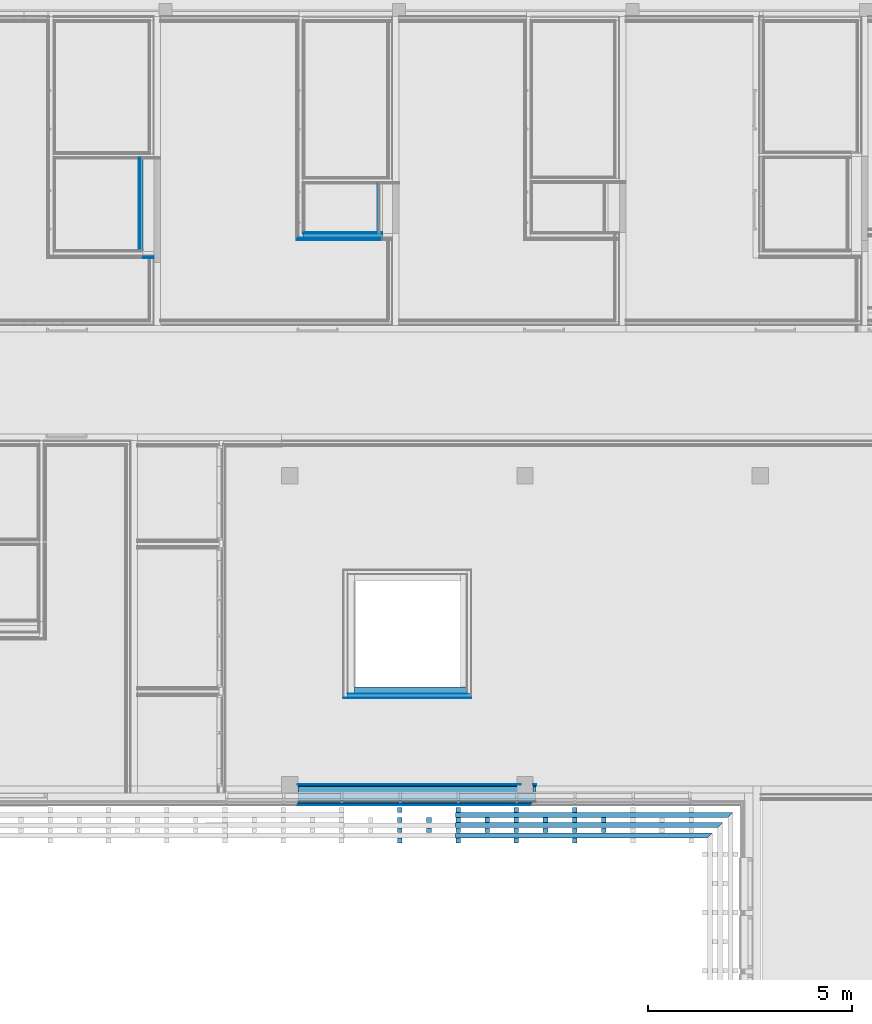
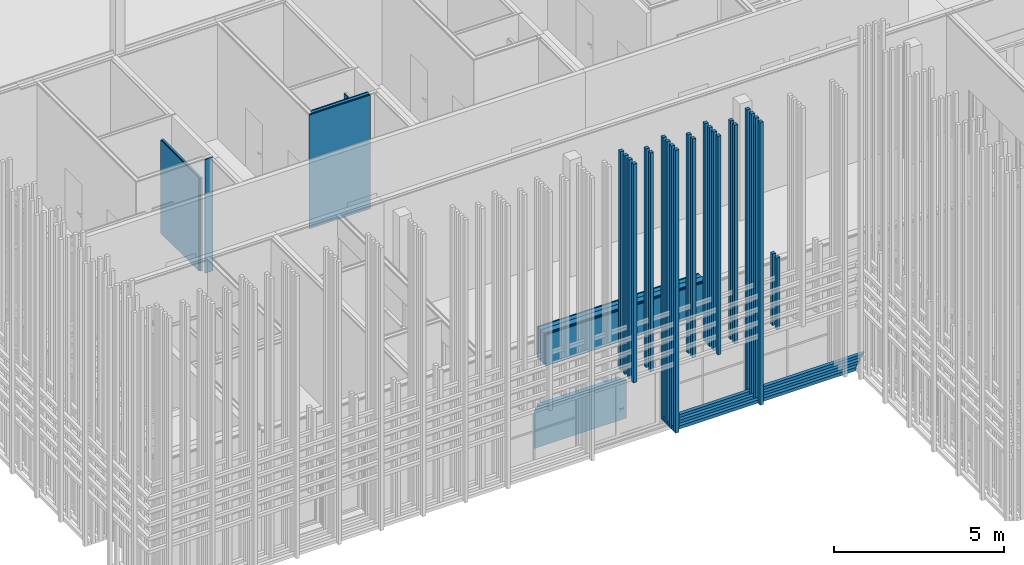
# One storey, part 159 of 260: 27 building element parts, 9 discrete accessories, 1 opening, 6 elements without a shape of their own.
"""IFC2X3 building model written with IfcOpenShell, lengths in millimetres."""

from ifc_helpers import new_model, entity, si_unit, converted_unit, derived_unit, money_unit, direction, frame, origin_with_axes, place, context, subcontext, project, spatial, faceted_brep, material, material_list, type_object, element, aggregate, save


model = new_model("IFC2X3")

# Units and contexts
model_context = context("Model", 3, precision=0.01, world=origin_with_axes(), true_north=direction((0.0, 1.0)))
body_context = subcontext(model_context, "Body", "Model", "MODEL_VIEW")
ifc_project = project(units=[si_unit("LENGTHUNIT", "METRE", prefix="MILLI"), si_unit("AREAUNIT", "SQUARE_METRE"), si_unit("VOLUMEUNIT", "CUBIC_METRE"), converted_unit("PLANEANGLEUNIT", "DEGREE", entity("IfcPlaneAngleMeasure", 0.0174532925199), si_unit("PLANEANGLEUNIT", "RADIAN"), dimensions=[0, 0, 0, 0, 0, 0, 0]), money_unit("EUR"), converted_unit("TIMEUNIT", "Year", entity("IfcTimeMeasure", 31556926.0), si_unit("TIMEUNIT", "SECOND"), dimensions=[0, 0, 1, 0, 0, 0, 0]), si_unit("MASSUNIT", "GRAM", prefix="KILO"), si_unit("THERMODYNAMICTEMPERATUREUNIT", "DEGREE_CELSIUS"), si_unit("LUMINOUSINTENSITYUNIT", "LUMEN"), si_unit("ENERGYUNIT", "JOULE", prefix="MEGA"), derived_unit("THERMALCONDUCTANCEUNIT", [(si_unit("POWERUNIT", "WATT"), 1), (si_unit("LENGTHUNIT", "METRE"), -1), (si_unit("THERMODYNAMICTEMPERATUREUNIT", "KELVIN"), -1)]), derived_unit("SPECIFICHEATCAPACITYUNIT", [(si_unit("ENERGYUNIT", "JOULE"), 1), (si_unit("MASSUNIT", "GRAM", prefix="KILO"), -1), (si_unit("THERMODYNAMICTEMPERATUREUNIT", "KELVIN"), -1)]), derived_unit("MASSDENSITYUNIT", [(si_unit("MASSUNIT", "GRAM", prefix="KILO"), 1), (si_unit("VOLUMEUNIT", "CUBIC_METRE"), -1)])], contexts=[model_context])

# Site, building, storey
site_placement = place(None, origin_with_axes())
site = spatial("IfcSite", under=ifc_project, at=site_placement, Name="Kolde pst 67a", CompositionType="ELEMENT")
building_placement = place(site_placement, origin_with_axes())
building = spatial("IfcBuilding", under=site, at=building_placement, Name="Riigigümnaasium", CompositionType="ELEMENT")
storey_placement = place(building_placement, origin_with_axes())
storey = spatial("IfcBuildingStorey", under=building, at=storey_placement, Name="1. korrus", CompositionType="ELEMENT", Elevation=0.0)

# Discrete accessories
ifc_material_1 = material(Name="_VÄLISVIIMISTLUS - sõrmjätkatud puitprussid 120x115mm, liitekohad vähemärgatavad, Platowood sõrmjätkatud kuusk või samaväärne; eeltöödeldud tuletõkkevõõbaga, tuletundlikkus B-s1, d0, Woodsafe Exterior WFX™ või samaväärne; kinnitused vastavalt EK osale")
ifc_material_list_1 = material_list([ifc_material_1, ifc_material_1, ifc_material_1, ifc_material_1])
discrete_accessory_type_1 = type_object("IfcDiscreteAccessoryType", Name="120 4-ne vertikaalne 870 x 115")
discrete_accessory_1_placement = place(storey_placement, frame((15367.5022112, 47693.7277058, 2580.00014213), z_axis=(0.0, 0.0, 1.0), x_axis=(5.86859191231e-05, 0.999999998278, 0.0)))
element("IfcDiscreteAccessory", 1, at=discrete_accessory_1_placement, inside=storey, type_object=discrete_accessory_type_1, material=ifc_material_list_1, Name="Päikesevarjestus", context=body_context, shape_type="Brep", body=[
    faceted_brep([(-133.0, -70.0, 0.0), (-13.0, -70.0, 0.0), (-13.0, -70.0, 7839.99985787), (-133.0, -70.0, 7839.99985787), (-133.0, 45.0, 0.0), (-13.0, 45.0, 0.0), (-13.0, 45.0, 7839.99985787), (-133.0, 45.0, 7839.99985787)], [[[0, 1, 2, 3]], [[0, 4, 5, 1]], [[1, 5, 6, 2]], [[3, 2, 6, 7]], [[4, 0, 3, 7]], [[5, 4, 7, 6]]]),
    faceted_brep([(-383.0, -70.0, 0.0), (-263.0, -70.0, 0.0), (-263.0, -70.0, 7839.99985787), (-383.0, -70.0, 7839.99985787), (-383.0, 45.0, 0.0), (-263.0, 45.0, 0.0), (-263.0, 45.0, 7839.99985787), (-383.0, 45.0, 7839.99985787)], [[[0, 1, 2, 3]], [[0, 4, 5, 1]], [[1, 5, 6, 2]], [[3, 2, 6, 7]], [[4, 0, 3, 7]], [[5, 4, 7, 6]]]),
    faceted_brep([(-633.0, -70.0, 0.0), (-513.0, -70.0, 0.0), (-513.0, -70.0, 7839.99985787), (-633.0, -70.0, 7839.99985787), (-633.0, 45.0, 0.0), (-513.0, 45.0, 0.0), (-513.0, 45.0, 7839.99985787), (-633.0, 45.0, 7839.99985787)], [[[0, 1, 2, 3]], [[0, 4, 5, 1]], [[1, 5, 6, 2]], [[3, 2, 6, 7]], [[4, 0, 3, 7]], [[5, 4, 7, 6]]]),
    faceted_brep([(-883.0, -70.0, 0.0), (-763.0, -70.0, 0.0), (-763.0, -70.0, 7839.99985787), (-883.0, -70.0, 7839.99985787), (-883.0, 45.0, 0.0), (-763.0, 45.0, 0.0), (-763.0, 45.0, 7839.99985787), (-883.0, 45.0, 7839.99985787)], [[[0, 1, 2, 3]], [[0, 4, 5, 1]], [[1, 5, 6, 2]], [[3, 2, 6, 7]], [[4, 0, 3, 7]], [[5, 4, 7, 6]]]),
])
discrete_accessory_2_placement = place(storey_placement, frame((16797.5040936, 47693.7206635, 280.0), z_axis=(0.0, 0.0, 1.0), x_axis=(5.86859191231e-05, 0.999999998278, 0.0)))
element("IfcDiscreteAccessory", 2, at=discrete_accessory_2_placement, inside=storey, type_object=discrete_accessory_type_1, material=ifc_material_list_1, Name="Päikesevarjestus", context=body_context, shape_type="Brep", body=[
    faceted_brep([(-133.0, -70.0, 0.0), (-13.0, -70.0, 0.0), (-13.0, -70.0, 10140.0), (-133.0, -70.0, 10140.0), (-133.0, 45.0, 0.0), (-13.0, 45.0, 0.0), (-13.0, 45.0, 10140.0), (-133.0, 45.0, 10140.0)], [[[0, 1, 2, 3]], [[0, 4, 5, 1]], [[1, 5, 6, 2]], [[3, 2, 6, 7]], [[4, 0, 3, 7]], [[5, 4, 7, 6]]]),
    faceted_brep([(-383.0, -70.0, 0.0), (-263.0, -70.0, 0.0), (-263.0, -70.0, 10140.0), (-383.0, -70.0, 10140.0), (-383.0, 45.0, 0.0), (-263.0, 45.0, 0.0), (-263.0, 45.0, 10140.0), (-383.0, 45.0, 10140.0)], [[[0, 1, 2, 3]], [[0, 4, 5, 1]], [[1, 5, 6, 2]], [[3, 2, 6, 7]], [[4, 0, 3, 7]], [[5, 4, 7, 6]]]),
    faceted_brep([(-633.0, -70.0, 0.0), (-513.0, -70.0, 0.0), (-513.0, -70.0, 10140.0), (-633.0, -70.0, 10140.0), (-633.0, 45.0, 0.0), (-513.0, 45.0, 0.0), (-513.0, 45.0, 10140.0), (-633.0, 45.0, 10140.0)], [[[0, 1, 2, 3]], [[0, 4, 5, 1]], [[1, 5, 6, 2]], [[3, 2, 6, 7]], [[4, 0, 3, 7]], [[5, 4, 7, 6]]]),
    faceted_brep([(-883.0, -70.0, 0.0), (-763.0, -70.0, 0.0), (-763.0, -70.0, 10140.0), (-883.0, -70.0, 10140.0), (-883.0, 45.0, 0.0), (-763.0, 45.0, 0.0), (-763.0, 45.0, 10140.0), (-883.0, 45.0, 10140.0)], [[[0, 1, 2, 3]], [[0, 4, 5, 1]], [[1, 5, 6, 2]], [[3, 2, 6, 7]], [[4, 0, 3, 7]], [[5, 4, 7, 6]]]),
])
discrete_accessory_3_placement = place(storey_placement, frame((18227.5026332, 47693.7206635, 2580.00014213), z_axis=(0.0, 0.0, 1.0), x_axis=(5.86859191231e-05, 0.999999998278, 0.0)))
element("IfcDiscreteAccessory", 3, at=discrete_accessory_3_placement, inside=storey, type_object=discrete_accessory_type_1, material=ifc_material_list_1, Name="Päikesevarjestus", context=body_context, shape_type="Brep", body=[
    faceted_brep([(-133.0, -70.0, 0.0), (-13.0, -70.0, 0.0), (-13.0, -70.0, 7839.99985787), (-133.0, -70.0, 7839.99985787), (-133.0, 45.0, 0.0), (-13.0, 45.0, 0.0), (-13.0, 45.0, 7839.99985787), (-133.0, 45.0, 7839.99985787)], [[[0, 1, 2, 3]], [[0, 4, 5, 1]], [[1, 5, 6, 2]], [[3, 2, 6, 7]], [[4, 0, 3, 7]], [[5, 4, 7, 6]]]),
    faceted_brep([(-383.0, -70.0, 0.0), (-263.0, -70.0, 0.0), (-263.0, -70.0, 7839.99985787), (-383.0, -70.0, 7839.99985787), (-383.0, 45.0, 0.0), (-263.0, 45.0, 0.0), (-263.0, 45.0, 7839.99985787), (-383.0, 45.0, 7839.99985787)], [[[0, 1, 2, 3]], [[0, 4, 5, 1]], [[1, 5, 6, 2]], [[3, 2, 6, 7]], [[4, 0, 3, 7]], [[5, 4, 7, 6]]]),
    faceted_brep([(-633.0, -70.0, 0.0), (-513.0, -70.0, 0.0), (-513.0, -70.0, 7839.99985787), (-633.0, -70.0, 7839.99985787), (-633.0, 45.0, 0.0), (-513.0, 45.0, 0.0), (-513.0, 45.0, 7839.99985787), (-633.0, 45.0, 7839.99985787)], [[[0, 1, 2, 3]], [[0, 4, 5, 1]], [[1, 5, 6, 2]], [[3, 2, 6, 7]], [[4, 0, 3, 7]], [[5, 4, 7, 6]]]),
    faceted_brep([(-883.0, -70.0, 0.0), (-763.0, -70.0, 0.0), (-763.0, -70.0, 7839.99985787), (-883.0, -70.0, 7839.99985787), (-883.0, 45.0, 0.0), (-763.0, 45.0, 0.0), (-763.0, 45.0, 7839.99985787), (-883.0, 45.0, 7839.99985787)], [[[0, 1, 2, 3]], [[0, 4, 5, 1]], [[1, 5, 6, 2]], [[3, 2, 6, 7]], [[4, 0, 3, 7]], [[5, 4, 7, 6]]]),
])
discrete_accessory_4_placement = place(storey_placement, frame((19657.5040936, 47693.7206635, 280.0), z_axis=(0.0, 0.0, 1.0), x_axis=(5.86859191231e-05, 0.999999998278, 0.0)))
element("IfcDiscreteAccessory", 4, at=discrete_accessory_4_placement, inside=storey, type_object=discrete_accessory_type_1, material=ifc_material_list_1, Name="Päikesevarjestus", context=body_context, shape_type="Brep", body=[
    faceted_brep([(-133.0, -70.0, 0.0), (-13.0, -70.0, 0.0), (-13.0, -70.0, 10140.0), (-133.0, -70.0, 10140.0), (-133.0, 45.0, 0.0), (-13.0, 45.0, 0.0), (-13.0, 45.0, 10140.0), (-133.0, 45.0, 10140.0)], [[[0, 1, 2, 3]], [[0, 4, 5, 1]], [[1, 5, 6, 2]], [[3, 2, 6, 7]], [[4, 0, 3, 7]], [[5, 4, 7, 6]]]),
    faceted_brep([(-383.0, -70.0, 0.0), (-263.0, -70.0, 0.0), (-263.0, -70.0, 10140.0), (-383.0, -70.0, 10140.0), (-383.0, 45.0, 0.0), (-263.0, 45.0, 0.0), (-263.0, 45.0, 10140.0), (-383.0, 45.0, 10140.0)], [[[0, 1, 2, 3]], [[0, 4, 5, 1]], [[1, 5, 6, 2]], [[3, 2, 6, 7]], [[4, 0, 3, 7]], [[5, 4, 7, 6]]]),
    faceted_brep([(-633.0, -70.0, 0.0), (-513.0, -70.0, 0.0), (-513.0, -70.0, 10140.0), (-633.0, -70.0, 10140.0), (-633.0, 45.0, 0.0), (-513.0, 45.0, 0.0), (-513.0, 45.0, 10140.0), (-633.0, 45.0, 10140.0)], [[[0, 1, 2, 3]], [[0, 4, 5, 1]], [[1, 5, 6, 2]], [[3, 2, 6, 7]], [[4, 0, 3, 7]], [[5, 4, 7, 6]]]),
    faceted_brep([(-883.0, -70.0, 0.0), (-763.0, -70.0, 0.0), (-763.0, -70.0, 10140.0), (-883.0, -70.0, 10140.0), (-883.0, 45.0, 0.0), (-763.0, 45.0, 0.0), (-763.0, 45.0, 10140.0), (-883.0, 45.0, 10140.0)], [[[0, 1, 2, 3]], [[0, 4, 5, 1]], [[1, 5, 6, 2]], [[3, 2, 6, 7]], [[4, 0, 3, 7]], [[5, 4, 7, 6]]]),
])
ifc_material_list_2 = material_list([ifc_material_1, ifc_material_1, ifc_material_1])
discrete_accessory_type_2 = type_object("IfcDiscreteAccessoryType", Name="120 1+paiksekaitse 3 tk  620 x 115")
discrete_accessory_5_placement = place(storey_placement, frame((16750.0029199, 47680.7164087, 352.5), z_axis=(0.0, 0.0, 1.0), x_axis=(0.0, -1.0, 0.0)))
element("IfcDiscreteAccessory", 5, at=discrete_accessory_5_placement, inside=storey, type_object=discrete_accessory_type_2, material=ifc_material_list_2, Name="Päikesevarjestus", context=body_context, shape_type="Brep", body=[
    faceted_brep([(625.0, 6300.00951483, 45.0), (625.0, 0.0, 45.0), (745.0, 0.0, 45.0), (745.0, 6180.01077097, 45.0), (625.0, 6300.00951483, -70.0), (625.0, 0.0, -70.0), (745.0, 0.0, -70.0), (745.0, 6180.01077097, -70.0)], [[[0, 1, 2, 3]], [[4, 5, 1, 0]], [[5, 6, 2, 1]], [[3, 2, 6, 7]], [[4, 0, 3, 7]], [[7, 6, 5, 4]]]),
    faceted_brep([(375.0, 6550.00689788, 45.0), (375.0, 0.0, 45.0), (495.0, 0.0, 45.0), (495.0, 6430.00815402, 45.0), (375.0, 6550.00689788, -70.0), (375.0, 0.0, -70.0), (495.0, 0.0, -70.0), (495.0, 6430.00815402, -70.0)], [[[0, 1, 2, 3]], [[4, 5, 1, 0]], [[5, 6, 2, 1]], [[3, 2, 6, 7]], [[4, 0, 3, 7]], [[7, 6, 5, 4]]]),
    faceted_brep([(125.0, 6800.00428093, 45.0), (125.0, 0.0, 45.0), (245.0, 0.0, 45.0), (245.0, 6680.00553707, 45.0), (125.0, 6800.00428093, -70.0), (125.0, 0.0, -70.0), (245.0, 0.0, -70.0), (245.0, 6680.00553707, -70.0)], [[[0, 1, 2, 3]], [[4, 5, 1, 0]], [[5, 6, 2, 1]], [[3, 2, 6, 7]], [[4, 0, 3, 7]], [[7, 6, 5, 4]]]),
])
ifc_material_list_3 = material_list([ifc_material_1, ifc_material_1])
discrete_accessory_type_3 = type_object("IfcDiscreteAccessoryType", Name="1+paiksekaitse 3 370 x 115")
for number, where, z_axis, x_axis in (
    (6, (17584.9643617, 46713.6768307, 2580.00014213), (0.0, 0.0, 1.0), (0.0, 1.0, 0.0)),
    (7, (19014.9643617, 46713.6768307, 2580.00014213), (0.0, 0.0, 1.0), (0.0, 1.0, 0.0)),
    (8, (16154.9643617, 46713.6768307, 2580.00014213), (0.0, 0.0, 1.0), (0.0, 1.0, 0.0)),
):
    element("IfcDiscreteAccessory", number, at=place(storey_placement, frame(where, z_axis=z_axis, x_axis=x_axis)), inside=storey, type_object=discrete_accessory_type_3, material=ifc_material_list_3, Name="Päikesevarjestus", context=body_context, shape_type="Brep", body=[
        faceted_brep([(467.0, 117.5, 0.0), (347.0, 117.5, 0.0), (347.0, 117.5, 7839.99985787), (467.0, 117.5, 7839.99985787), (467.0, 2.5, 0.0), (347.0, 2.5, 0.0), (347.0, 2.5, 7839.99985787), (467.0, 2.5, 7839.99985787)], [[[0, 1, 2, 3]], [[0, 4, 5, 1]], [[1, 5, 6, 2]], [[3, 2, 6, 7]], [[4, 0, 3, 7]], [[5, 4, 7, 6]]]),
        faceted_brep([(717.0, 117.5, 0.0), (597.0, 117.5, 0.0), (597.0, 117.5, 7839.99985787), (717.0, 117.5, 7839.99985787), (717.0, 2.5, 0.0), (597.0, 2.5, 0.0), (597.0, 2.5, 7839.99985787), (717.0, 2.5, 7839.99985787)], [[[0, 1, 2, 3]], [[0, 4, 5, 1]], [[1, 5, 6, 2]], [[3, 2, 6, 7]], [[4, 0, 3, 7]], [[5, 4, 7, 6]]]),
    ])
discrete_accessory_6_placement = place(storey_placement, frame((20444.9643617, 46713.6768307, 2580.00014213), z_axis=(0.0, 0.0, 1.0), x_axis=(0.0, 1.0, 0.0)))
element("IfcDiscreteAccessory", 9, at=discrete_accessory_6_placement, inside=storey, type_object=discrete_accessory_type_3, material=ifc_material_list_3, Name="Päikesevarjestus", context=body_context, shape_type="Brep", body=[
    faceted_brep([(467.0, 117.5, 0.0), (347.0, 117.5, 0.0), (347.0, 117.5, 2570.0), (467.0, 117.5, 2570.0), (467.0, 2.5, 0.0), (347.0, 2.5, 0.0), (347.0, 2.5, 2570.0), (467.0, 2.5, 2570.0)], [[[0, 1, 2, 3]], [[0, 4, 5, 1]], [[1, 5, 6, 2]], [[3, 2, 6, 7]], [[4, 0, 3, 7]], [[5, 4, 7, 6]]]),
    faceted_brep([(717.0, 117.5, 0.0), (597.0, 117.5, 0.0), (597.0, 117.5, 2570.0), (717.0, 117.5, 2570.0), (717.0, 2.5, 0.0), (597.0, 2.5, 0.0), (597.0, 2.5, 2570.0), (717.0, 2.5, 2570.0)], [[[0, 1, 2, 3]], [[0, 4, 5, 1]], [[1, 5, 6, 2]], [[3, 2, 6, 7]], [[4, 0, 3, 7]], [[5, 4, 7, 6]]]),
])

# Wall, building element parts
wall_type_1 = type_object("IfcWallType", Name="SS-MK-66/3_šahti sein+plaat 106", PredefinedType="NOTDEFINED")
wall_1_placement = place(storey_placement, frame((8975.48826235, 63750.0141369, 0.0), z_axis=(0.0, 0.0, 1.0), x_axis=(0.0, -1.0, 0.0)))
wall_1 = element("IfcWall", 10, at=wall_1_placement, inside=storey, type_object=wall_type_1, Name="Varisein")
ifc_material_2 = material(Name="_KARKASS - metallkarkass CW 75/50, mineraalvill karkassi vahel")
building_element_part_1_placement = place(wall_1_placement, origin_with_axes())
building_element_part_1 = element("IfcBuildingElementPart", 11, at=building_element_part_1_placement, material=ifc_material_2, Name="_KARKASS - metallkarkass CW 75/50, mineraalvill karkassi vahel", context=body_context, shape_type="Brep", body=[
    faceted_brep([(2434.47377631, 40.0, 0.0), (115.0, 40.0, 0.0), (115.0, 106.0, 0.0), (2434.47377631, 106.0, 0.0), (2434.47377631, 40.0, 3340.0), (115.0, 40.0, 3340.0), (115.0, 106.0, 3340.0), (2434.47377631, 106.0, 3340.0)], [[[0, 1, 2, 3]], [[4, 5, 1, 0]], [[2, 1, 5, 6]], [[3, 2, 6, 7]], [[3, 7, 4, 0]], [[7, 6, 5, 4]]]),
])
ifc_material_3 = material(Name="_PLAATMATERJAL - kipsplaat veekindel")
building_element_part_2_placement = place(wall_1_placement, origin_with_axes())
building_element_part_2 = element("IfcBuildingElementPart", 12, at=building_element_part_2_placement, material=ifc_material_3, Name="_PLAATMATERJAL - kipsplaat veekindel", context=body_context, shape_type="Brep", body=[
    faceted_brep([(2421.97377631, 27.5, 0.0), (127.5, 27.5, 0.0), (127.5, 40.0, 0.0), (2421.97377631, 40.0, 0.0), (2421.97377631, 27.5, 3340.0), (127.5, 27.5, 3340.0), (127.5, 40.0, 3340.0), (2421.97377631, 40.0, 3340.0)], [[[0, 1, 2, 3]], [[4, 5, 1, 0]], [[2, 1, 5, 6]], [[3, 2, 6, 7]], [[3, 7, 4, 0]], [[7, 6, 5, 4]]]),
])
building_element_part_3_placement = place(wall_1_placement, origin_with_axes())
building_element_part_3 = element("IfcBuildingElementPart", 13, at=building_element_part_3_placement, material=ifc_material_3, Name="_PLAATMATERJAL - kipsplaat veekindel", context=body_context, shape_type="Brep", body=[
    faceted_brep([(2409.47377631, 15.0, 0.0), (140.0, 15.0, 0.0), (140.0, 27.5, 0.0), (2409.47377631, 27.5, 0.0), (2409.47377631, 15.0, 3340.0), (140.0, 15.0, 3340.0), (140.0, 27.5, 3340.0), (2409.47377631, 27.5, 3340.0)], [[[0, 1, 2, 3]], [[4, 5, 1, 0]], [[2, 1, 5, 6]], [[3, 2, 6, 7]], [[3, 7, 4, 0]], [[7, 6, 5, 4]]]),
])
ifc_material_4 = material(Name="_VIIMISTLUSKIHT - viimistlus vastavalt SA osale")
building_element_part_4_placement = place(wall_1_placement, origin_with_axes())
building_element_part_4 = element("IfcBuildingElementPart", 14, at=building_element_part_4_placement, material=ifc_material_4, Name="_VIIMISTLUSKIHT - viimistlus vastavalt SA osale", context=body_context, shape_type="Brep", body=[
    faceted_brep([(2394.47377631, 0.0, 0.0), (155.0, 0.0, 0.0), (155.0, 15.0, 0.0), (2394.47377631, 15.0, 0.0), (2394.47377631, 0.0, 3340.0), (155.0, 0.0, 3340.0), (155.0, 15.0, 3340.0), (2394.47377631, 15.0, 3340.0)], [[[0, 1, 2, 3]], [[4, 5, 1, 0]], [[2, 1, 5, 6]], [[3, 2, 6, 7]], [[3, 7, 4, 0]], [[7, 6, 5, 4]]]),
])
aggregate(wall_1, [building_element_part_1, building_element_part_2, building_element_part_3, building_element_part_4])

# Wall, building element part
wall_2_placement = place(storey_placement, frame((14842.7402149, 63139.5592997, 0.0), z_axis=(0.0, 0.0, 1.0), x_axis=(0.0, -1.0, 0.0)))
wall_2 = element("IfcWall", 15, at=wall_2_placement, inside=storey, type_object=wall_type_1, Name="Varisein")
building_element_part_5_placement = place(wall_2_placement, origin_with_axes())
building_element_part_5 = element("IfcBuildingElementPart", 16, at=building_element_part_5_placement, material=ifc_material_4, Name="_VIIMISTLUSKIHT - viimistlus vastavalt SA osale", context=body_context, shape_type="Brep", body=[
    faceted_brep([(1341.5536395, 0.0, 0.0), (155.0, 0.0, 0.0), (155.0, 15.0, 0.0), (1341.5536395, 15.0, 0.0), (1341.5536395, 0.0, 3340.0), (155.0, 0.0, 3340.0), (155.0, 15.0, 3340.0), (1341.5536395, 15.0, 3340.0)], [[[0, 1, 2, 3]], [[4, 5, 1, 0]], [[2, 1, 5, 6]], [[3, 2, 6, 7]], [[3, 7, 4, 0]], [[7, 6, 5, 4]]]),
])
aggregate(wall_2, [building_element_part_5])

# Wall, building element parts
wall_type_2 = type_object("IfcWallType", Name="VS-RB-16/1_mullakast 273", PredefinedType="NOTDEFINED")
wall_3_placement = place(storey_placement, frame((14105.000519, 50474.9876282, -1460.1), z_axis=(0.0, 0.0, 1.0), x_axis=(1.0, 0.0, 0.0)))
wall_3 = element("IfcWall", 17, at=wall_3_placement, inside=storey, type_object=wall_type_2, Name="taimekast")
ifc_material_5 = material(Name="_KANDETARIND - monoliitne raudbetoon vastavalt EK osale")
building_element_part_6_placement = place(wall_3_placement, origin_with_axes())
building_element_part_6 = element("IfcBuildingElementPart", 18, at=building_element_part_6_placement, material=ifc_material_5, Name="_KANDETARIND - monoliitne raudbetoon vastavalt EK osale", context=body_context, shape_type="Brep", body=[
    faceted_brep([(2920.0, 0.0, 0.0), (160.0, 0.0, 0.0), (160.0, 160.0, 0.0), (2920.0, 160.0, 0.0), (2920.0, 0.0, 1360.1), (160.0, 0.0, 1360.1), (160.0, 160.0, 1360.1), (2920.0, 160.0, 1360.1)], [[[0, 1, 2, 3]], [[4, 5, 1, 0]], [[2, 1, 5, 6]], [[3, 2, 6, 7]], [[3, 7, 4, 0]], [[7, 6, 5, 4]]]),
])
ifc_material_6 = material(Name="_HÜDROISOLATSIOON/RADOONITÕKE - eelpaigaldatav elastne hüdroisolatsioonimembraan, värske betooniga nakkuv, radoonitihe, FORSOC PROOFEX 3000 või samaväärne")
building_element_part_7_placement = place(wall_3_placement, origin_with_axes())
building_element_part_7 = element("IfcBuildingElementPart", 19, at=building_element_part_7_placement, material=ifc_material_6, Name="_HÜDROISOLATSIOON/RADOONITÕKE - eelpaigaldatav elastne hüdroisolatsioonimembraan, värske betooniga nakkuv, radoonitihe, FORSOC PROOFEX 3000 või samaväärne", context=body_context, shape_type="Brep", body=[
    faceted_brep([(2923.0, -3.0, 0.0), (0.0, -3.0, 0.0), (0.0, 0.0, 0.0), (2923.0, 0.0, 0.0), (2923.0, -3.0, 1360.1), (0.0, -3.0, 1360.1), (0.0, 0.0, 1360.1), (2923.0, 0.0, 1360.1)], [[[0, 1, 2, 3]], [[4, 5, 1, 0]], [[2, 1, 5, 6]], [[3, 2, 6, 7]], [[3, 7, 4, 0]], [[7, 6, 5, 4]]]),
])
ifc_material_7 = material(Name="_SOOJUSTUS - vahtpolüstüreenplaadid EPS 120 Perimeeter, survetugevus min. 120kPa, veeimavus <2%, soojuserijuhtivus λD<0,036 W/(mK)")
building_element_part_8_placement = place(wall_3_placement, origin_with_axes())
building_element_part_8 = element("IfcBuildingElementPart", 20, at=building_element_part_8_placement, material=ifc_material_7, Name="_SOOJUSTUS - vahtpolüstüreenplaadid EPS 120 Perimeeter, survetugevus min. 120kPa, veeimavus <2%, soojuserijuhtivus λD<0,036 W/(mK)", context=body_context, shape_type="Brep", body=[
    faceted_brep([(3023.0, -103.0, 0.0), (-3.0, -103.0, 0.0), (-3.0, -3.0, 0.0), (3023.0, -3.0, 0.0), (3023.0, -103.0, 1360.1), (-3.0, -103.0, 1360.1), (-3.0, -3.0, 1360.1), (3023.0, -3.0, 1360.1)], [[[0, 1, 2, 3]], [[4, 5, 1, 0]], [[2, 1, 5, 6]], [[3, 2, 6, 7]], [[3, 7, 4, 0]], [[7, 6, 5, 4]]]),
])
ifc_material_8 = material(Name="_ALUSKATE - drenaaži- ja kaitsematt geotekstiiliga soojustuse kaitseks, Interplast Iso-Drain 8 Geo või samaväärne")
building_element_part_9_placement = place(wall_3_placement, origin_with_axes())
building_element_part_9 = element("IfcBuildingElementPart", 21, at=building_element_part_9_placement, material=ifc_material_8, Name="_ALUSKATE - drenaaži- ja kaitsematt geotekstiiliga soojustuse kaitseks, Interplast Iso-Drain 8 Geo või samaväärne", context=body_context, shape_type="Brep", body=[
    faceted_brep([(3033.0, -113.0, 0.0), (-103.0, -113.0, 0.0), (-103.0, -103.0, 0.0), (3033.0, -103.0, 0.0), (3033.0, -113.0, 1360.1), (-103.0, -113.0, 1360.1), (-103.0, -103.0, 1360.1), (3033.0, -103.0, 1360.1)], [[[0, 1, 2, 3]], [[4, 5, 1, 0]], [[2, 1, 5, 6]], [[3, 2, 6, 7]], [[3, 7, 4, 0]], [[7, 6, 5, 4]]]),
])
aggregate(wall_3, [building_element_part_6, building_element_part_7, building_element_part_8, building_element_part_9])

# Wall, opening, building element parts
wall_type_3 = type_object("IfcWallType", Name="VS-CLT-16/9_18vineer+karkass 32+CLT160+soojust 200   522", PredefinedType="NOTDEFINED")
wall_4_placement = place(storey_placement, frame((12879.9962162, 48039.9808308, 100.0), z_axis=(0.0, 0.0, 1.0), x_axis=(1.0, 0.0, 0.0)))
wall_4 = element("IfcWall", 22, at=wall_4_placement, inside=storey, type_object=wall_type_3, Name="Välissein")
opening_placement = place(wall_4_placement, frame((2922.50302525, 0.0, -100.0), z_axis=(0.0, 0.0, 1.0), x_axis=(1.0, 0.0, 0.0)))
element("IfcOpeningElement", 23, at=opening_placement, cuts=wall_4, Name="Ukseava", context=body_context, shape_type="Brep", body=[
    faceted_brep([(2922.50302525, 522.0, 0.0), (2922.50302525, 522.0, 3490.00006739), (2922.50302525, -1044.0, 3490.00006739), (2922.50302525, -1044.0, 0.0), (-2922.50302525, 522.0, 0.0), (-2922.50302525, 522.0, 3490.00006739), (-2922.50302525, -1044.0, 3490.00006739), (-2922.50302525, -1044.0, 0.0)], [[[0, 1, 2, 3]], [[0, 4, 5, 1]], [[1, 5, 6, 2]], [[3, 2, 6, 7]], [[4, 0, 3, 7]], [[5, 4, 7, 6]]]),
])
ifc_material_9 = material(Name="_PLAATMATERJAL - niiskuskindel vineerplaat, kvaliteediklass BB")
building_element_part_10_placement = place(wall_4_placement, origin_with_axes())
building_element_part_10 = element("IfcBuildingElementPart", 24, at=building_element_part_10_placement, material=ifc_material_9, Name="_PLAATMATERJAL - niiskuskindel vineerplaat, kvaliteediklass BB", context=body_context, shape_type="Brep", body=[
    faceted_brep([(5470.007328, 192.0, 4500.00000327), (5470.007328, 192.0, 4070.0), (5470.007328, 210.0, 4070.0), (5470.007328, 210.0, 4500.00000358), (5370.00732813, 192.0, 3390.00006739), (5370.00732813, 192.0, 4070.0), (0.0, 192.0, 4500.0), (0.0, 192.0, 3390.00006739), (5370.00732813, 210.0, 4070.0), (5370.00732813, 210.0, 3390.00006739), (0.0, 210.0, 3390.00006739), (0.0, 210.0, 4500.0)], [[[0, 1, 2, 3]], [[4, 5, 1, 0, 6, 7]], [[5, 8, 2, 1]], [[2, 8, 9, 10, 11, 3]], [[6, 0, 3, 11]], [[4, 9, 8, 5]], [[6, 11, 10, 7]], [[10, 9, 4, 7]]]),
    faceted_brep([(5770.00732813, 210.0, 3390.00006739), (5770.00732813, 210.0, 4070.0), (5845.0060505, 210.0, 4070.0), (5845.0060505, 210.0, 3390.00006739), (5770.00732813, 192.0, 4070.0), (5770.00732813, 192.0, 3390.00006739), (5845.0060505, 192.0, 4070.0), (5845.0060505, 192.0, 3390.00006739)], [[[0, 1, 2, 3]], [[4, 1, 0, 5]], [[1, 4, 6, 2]], [[6, 7, 3, 2]], [[5, 0, 3, 7]], [[4, 5, 7, 6]]]),
])
ifc_material_10 = material(Name="_KARKASS - puitroov 32x32mm, s. 600mm")
building_element_part_11_placement = place(wall_4_placement, origin_with_axes())
building_element_part_11 = element("IfcBuildingElementPart", 25, at=building_element_part_11_placement, material=ifc_material_10, Name="_KARKASS - puitroov 32x32mm, s. 600mm", context=body_context, shape_type="Brep", body=[
    faceted_brep([(5470.007328, 160.0, 4500.00000272), (5470.007328, 160.0, 4070.0), (5470.007328, 192.0, 4070.0), (5470.007328, 192.0, 4500.00000327), (5370.00732813, 160.0, 3390.00006739), (5370.00732813, 160.0, 4070.0), (0.0, 160.0, 4500.0), (0.0, 160.0, 3390.00006739), (5370.00732813, 192.0, 4070.0), (5370.00732813, 192.0, 3390.00006739), (0.0, 192.0, 3390.00006739), (0.0, 192.0, 4500.0)], [[[0, 1, 2, 3]], [[4, 5, 1, 0, 6, 7]], [[5, 8, 2, 1]], [[2, 8, 9, 10, 11, 3]], [[6, 0, 3, 11]], [[4, 9, 8, 5]], [[6, 11, 10, 7]], [[10, 9, 4, 7]]]),
    faceted_brep([(5770.00732813, 192.0, 3390.00006739), (5770.00732813, 192.0, 4070.0), (5845.0060505, 192.0, 4070.0), (5845.0060505, 192.0, 3390.00006739), (5770.00732813, 160.0, 4070.0), (5770.00732813, 160.0, 3390.00006739), (5845.0060505, 160.0, 4070.0), (5845.0060505, 160.0, 3390.00006739)], [[[0, 1, 2, 3]], [[4, 1, 0, 5]], [[1, 4, 6, 2]], [[6, 7, 3, 2]], [[5, 0, 3, 7]], [[4, 5, 7, 6]]]),
])
ifc_material_11 = material(Name="_KANDETARIND - CLT ristkihtliimpuit vastavalt EK osale, CLT paigaldusvuugid teibitakse ROTHOBLAAS teibiga")
building_element_part_12_placement = place(wall_4_placement, origin_with_axes())
building_element_part_12 = element("IfcBuildingElementPart", 26, at=building_element_part_12_placement, material=ifc_material_11, Name="_KANDETARIND - CLT ristkihtliimpuit vastavalt EK osale, CLT paigaldusvuugid teibitakse ROTHOBLAAS teibiga", context=body_context, shape_type="Brep", body=[
    faceted_brep([(5470.007328, 0.0, 4500.0), (5470.007328, 0.0, 4070.0), (5470.007328, 160.0, 4070.0), (5470.007328, 160.0, 4500.00000272), (5370.00732813, 0.0, 3390.00006739), (5370.00732813, 0.0, 4070.0), (0.0, 0.0, 4500.0), (0.0, 0.0, 3390.00006739), (5370.00732813, 160.0, 4070.0), (5370.00732813, 160.0, 3390.00006739), (0.0, 160.0, 3390.00006739), (0.0, 160.0, 4500.0)], [[[0, 1, 2, 3]], [[4, 5, 1, 0, 6, 7]], [[5, 8, 2, 1]], [[2, 8, 9, 10, 11, 3]], [[6, 0, 3, 11]], [[4, 9, 8, 5]], [[6, 11, 10, 7]], [[10, 9, 4, 7]]]),
    faceted_brep([(5770.00732813, 160.0, 3390.00006739), (5770.00732813, 160.0, 4070.0), (5845.0060505, 160.0, 4070.0), (5845.0060505, 160.0, 3390.00006739), (5770.00732813, 0.0, 4070.0), (5770.00732813, 0.0, 3390.00006739), (5845.0060505, 0.0, 4070.0), (5845.0060505, 0.0, 3390.00006739)], [[[0, 1, 2, 3]], [[4, 1, 0, 5]], [[1, 4, 6, 2]], [[6, 7, 3, 2]], [[5, 0, 3, 7]], [[4, 5, 7, 6]]]),
])
ifc_material_12 = material(Name="_SOOJUSTUS - mineraalvill, λD<0,032 W/(mK), kuumtsingitud lehtteras termoroovidega, S350GD+Zn275 vastavalt EN10346, ISOVER EXTREME 32 200mm või samaväärne")
building_element_part_13_placement = place(wall_4_placement, origin_with_axes())
building_element_part_13 = element("IfcBuildingElementPart", 27, at=building_element_part_13_placement, material=ifc_material_12, Name="_SOOJUSTUS - mineraalvill, λD<0,032 W/(mK), kuumtsingitud lehtteras termoroovidega, S350GD+Zn275 vastavalt EN10346, ISOVER EXTREME 32 200mm või samaväärne", context=body_context, shape_type="Brep", body=[
    faceted_brep([(5770.00732813, 0.0, 4070.0), (5370.00732813, 0.0, 4070.0), (5370.00732813, 0.0, 3390.00006739), (0.0, 0.0, 3390.00006739), (0.0, 0.0, 4500.0), (5845.0060505, 0.0, 4500.0), (5845.0060505, 0.0, 3390.00006739), (5770.00732813, 0.0, 3390.00006739), (5370.00732813, -0.231576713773, 4070.0), (5770.00732813, -0.231576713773, 4070.0), (5370.00732813, -0.231576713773, 3390.00006739), (5770.00732813, -0.231576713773, 3390.00006739), (5845.0060505, -200.0, 3390.00006739), (0.0, -200.0, 3390.00006739), (0.0, -200.0, 4500.0), (5845.0060505, -200.0, 4500.0)], [[[0, 1, 2, 3, 4, 5, 6, 7]], [[8, 1, 0, 9]], [[10, 2, 1, 8]], [[10, 11, 7, 6, 12, 13, 3, 2]], [[14, 4, 3, 13]], [[4, 14, 15, 5]], [[5, 15, 12, 6]], [[9, 0, 7, 11]], [[9, 11, 10, 8]], [[15, 14, 13, 12]]]),
])
ifc_material_13 = material(Name="_TUULETÕKE - tuuletõkkeplaat, soojuserijuhtivus λD<0,031 W/(mK), ISOVER RKL FACADE või samaväärne, liitekohad katta tihendusteibiga ISOVER FacadeTape või samaväärne")
building_element_part_14_placement = place(wall_4_placement, origin_with_axes())
building_element_part_14 = element("IfcBuildingElementPart", 28, at=building_element_part_14_placement, material=ifc_material_13, Name="_TUULETÕKE - tuuletõkkeplaat, soojuserijuhtivus λD<0,031 W/(mK), ISOVER RKL FACADE või samaväärne, liitekohad katta tihendusteibiga ISOVER FacadeTape või samaväärne", context=body_context, shape_type="Brep", body=[
    faceted_brep([(5845.0060505, -230.0, 3390.00006739), (5845.0060505, -200.0, 3390.00006739), (5845.0060505, -200.0, 4500.0), (5845.0060505, -230.0, 4500.0), (0.0, -200.0, 3390.00006739), (0.0, -230.0, 3390.00006739), (0.0, -200.0, 4500.0), (0.0, -230.0, 4500.0)], [[[0, 1, 2, 3]], [[4, 1, 0, 5]], [[1, 4, 6, 2]], [[2, 6, 7, 3]], [[5, 0, 3, 7]], [[4, 5, 7, 6]]]),
])
ifc_material_14 = material(Name="_KARKASS - puitroov 32x50mm vertikaalne, immutatud Driconi tulekaitsevahendiga või samaväärne, samm 600mm")
building_element_part_15_placement = place(wall_4_placement, origin_with_axes())
building_element_part_15 = element("IfcBuildingElementPart", 29, at=building_element_part_15_placement, material=ifc_material_14, Name="_KARKASS - puitroov 32x50mm vertikaalne, immutatud Driconi tulekaitsevahendiga või samaväärne, samm 600mm", context=body_context, shape_type="Brep", body=[
    faceted_brep([(5845.0060505, -262.0, 3390.00006739), (5845.0060505, -230.0, 3390.00006739), (5845.0060505, -230.0, 4500.0), (5845.0060505, -262.0, 4500.0), (0.0, -230.0, 3390.00006739), (0.0, -262.0, 3390.00006739), (0.0, -230.0, 4500.0), (0.0, -262.0, 4500.0)], [[[0, 1, 2, 3]], [[4, 1, 0, 5]], [[1, 4, 6, 2]], [[2, 6, 7, 3]], [[5, 0, 3, 7]], [[4, 5, 7, 6]]]),
])
ifc_material_15 = material(Name="_KARKASS - puitroov 32x50mm horisontaalne, immutatud Driconi tulekaitsevahendiga või samaväärne, samm 600mm")
building_element_part_16_placement = place(wall_4_placement, origin_with_axes())
building_element_part_16 = element("IfcBuildingElementPart", 30, at=building_element_part_16_placement, material=ifc_material_15, Name="_KARKASS - puitroov 32x50mm horisontaalne, immutatud Driconi tulekaitsevahendiga või samaväärne, samm 600mm", context=body_context, shape_type="Brep", body=[
    faceted_brep([(5845.0060505, -294.0, 3390.00006739), (5845.0060505, -262.0, 3390.00006739), (5845.0060505, -262.0, 4500.0), (5845.0060505, -294.0, 4500.0), (0.0, -262.0, 3390.00006739), (0.0, -294.0, 3390.00006739), (0.0, -262.0, 4500.0), (0.0, -294.0, 4500.0)], [[[0, 1, 2, 3]], [[4, 1, 0, 5]], [[1, 4, 6, 2]], [[2, 6, 7, 3]], [[5, 0, 3, 7]], [[4, 5, 7, 6]]]),
])
ifc_material_16 = material(Name="_VÄLISVIIMISTLUS - vertikaalne voodrilaud, Platowood P01 profiil 18x140mm, kuusk; eeltöödeldud tuletõkkega mõlemad küljed, B-s1, d0, Woodsafe Exterior WFX™ või samaväärne")
building_element_part_17_placement = place(wall_4_placement, origin_with_axes())
building_element_part_17 = element("IfcBuildingElementPart", 31, at=building_element_part_17_placement, material=ifc_material_16, Name="_VÄLISVIIMISTLUS - vertikaalne voodrilaud, Platowood P01 profiil 18x140mm, kuusk; eeltöödeldud tuletõkkega mõlemad küljed, B-s1, d0, Woodsafe Exterior WFX™ või samaväärne", context=body_context, shape_type="Brep", body=[
    faceted_brep([(5845.0060505, -312.0, 3390.00006739), (5845.0060505, -294.0, 3390.00006739), (5845.0060505, -294.0, 4500.0), (5845.0060505, -312.0, 4500.0), (0.0, -294.0, 3390.00006739), (0.0, -312.0, 3390.00006739), (0.0, -294.0, 4500.0), (0.0, -312.0, 4500.0)], [[[0, 1, 2, 3]], [[4, 1, 0, 5]], [[1, 4, 6, 2]], [[2, 6, 7, 3]], [[5, 0, 3, 7]], [[4, 5, 7, 6]]]),
])
aggregate(wall_4, [building_element_part_10, building_element_part_11, building_element_part_12, building_element_part_13, building_element_part_14, building_element_part_15, building_element_part_16, building_element_part_17])

# Wall, building element parts
wall_type_4 = type_object("IfcWallType", Name="SS-PK-10/2_vill100+dold+plaat 200", PredefinedType="NOTDEFINED")
wall_5_placement = place(storey_placement, frame((14948.7402149, 61798.0056602, 0.0), z_axis=(0.0, 0.0, 1.0), x_axis=(-1.0, 0.0, 0.0)))
wall_5 = element("IfcWall", 32, at=wall_5_placement, inside=storey, type_object=wall_type_4, Name="Sisesein")
building_element_part_18_placement = place(wall_5_placement, origin_with_axes())
building_element_part_18 = element("IfcBuildingElementPart", 33, at=building_element_part_18_placement, material=ifc_material_4, Name="_VIIMISTLUSKIHT - viimistlus vastavalt SA osale", context=body_context, shape_type="Brep", body=[
    faceted_brep([(2085.99999994, 180.0, 4080.0), (0.0, 180.0, 4080.0), (0.0, 180.0, 0.0), (2085.99999994, 180.0, 0.0), (0.0, 200.0, 4080.0), (2085.99999994, 200.0, 4080.0), (0.0, 200.0, 0.0), (2085.99999994, 200.0, 0.0)], [[[0, 1, 2, 3]], [[4, 1, 0, 5]], [[1, 4, 6, 2]], [[7, 3, 2, 6]], [[5, 0, 3, 7]], [[4, 5, 7, 6]]]),
])
ifc_material_17 = material(Name="_KARKASS - eriprofiilkinnitus vastavalt sisemisele plaatviimistlusele")
building_element_part_19_placement = place(wall_5_placement, origin_with_axes())
building_element_part_19 = element("IfcBuildingElementPart", 34, at=building_element_part_19_placement, material=ifc_material_17, Name="_KARKASS - eriprofiilkinnitus vastavalt sisemisele plaatviimistlusele", context=body_context, shape_type="Brep", body=[
    faceted_brep([(2075.99999994, 170.0, 4080.0), (0.0, 170.0, 4080.0), (0.0, 170.0, 0.0), (2075.99999994, 170.0, 0.0), (0.0, 180.0, 4080.0), (2075.99999994, 180.0, 4080.0), (0.0, 180.0, 0.0), (2075.99999994, 180.0, 0.0)], [[[0, 1, 2, 3]], [[4, 1, 0, 5]], [[1, 4, 6, 2]], [[7, 3, 2, 6]], [[5, 0, 3, 7]], [[4, 5, 7, 6]]]),
])
ifc_material_18 = material(Name="_PLAATMATERJAL - tuletõkkekipsplaat, Knauf Red GKF või samaväärne")
building_element_part_20_placement = place(wall_5_placement, origin_with_axes())
building_element_part_20 = element("IfcBuildingElementPart", 35, at=building_element_part_20_placement, material=ifc_material_18, Name="_PLAATMATERJAL - tuletõkkekipsplaat, Knauf Red GKF või samaväärne", context=body_context, shape_type="Brep", body=[
    faceted_brep([(2060.99999994, 155.0, 4080.0), (0.0, 155.0, 4080.0), (0.0, 155.0, 0.0), (2060.99999994, 155.0, 0.0), (0.0, 170.0, 4080.0), (2060.99999994, 170.0, 4080.0), (0.0, 170.0, 0.0), (2060.99999994, 170.0, 0.0)], [[[0, 1, 2, 3]], [[4, 1, 0, 5]], [[1, 4, 6, 2]], [[7, 3, 2, 6]], [[5, 0, 3, 7]], [[4, 5, 7, 6]]]),
])
building_element_part_21_placement = place(wall_5_placement, origin_with_axes())
building_element_part_21 = element("IfcBuildingElementPart", 36, at=building_element_part_21_placement, material=ifc_material_18, Name="_PLAATMATERJAL - tuletõkkekipsplaat, Knauf Red GKF või samaväärne", context=body_context, shape_type="Brep", body=[
    faceted_brep([(2045.99999994, 140.0, 4080.0), (0.0, 140.0, 4080.0), (0.0, 140.0, 0.0), (2045.99999994, 140.0, 0.0), (0.0, 155.0, 4080.0), (2045.99999994, 155.0, 4080.0), (0.0, 155.0, 0.0), (2045.99999994, 155.0, 0.0)], [[[0, 1, 2, 3]], [[4, 1, 0, 5]], [[1, 4, 6, 2]], [[7, 3, 2, 6]], [[5, 0, 3, 7]], [[4, 5, 7, 6]]]),
])
ifc_material_19 = material(Name="_KARKASS - puitpruss 100x50mm vertikaalne, samm 600mm, vahel mineraalvill, helineeldetegur αw = 1.0, ISOVER ACOUSTIC 100mm või samaväärne")
building_element_part_22_placement = place(wall_5_placement, origin_with_axes())
building_element_part_22 = element("IfcBuildingElementPart", 37, at=building_element_part_22_placement, material=ifc_material_19, Name="_KARKASS - puitpruss 100x50mm vertikaalne, samm 600mm, vahel mineraalvill, helineeldetegur αw = 1.0, ISOVER ACOUSTIC 100mm või samaväärne", context=body_context, shape_type="Brep", body=[
    faceted_brep([(1945.99999994, 40.0, 4080.0), (0.0, 40.0, 4080.0), (0.0, 40.0, 0.0), (1945.99999994, 40.0, 0.0), (0.0, 140.0, 4080.0), (1945.99999994, 140.0, 4080.0), (0.0, 140.0, 0.0), (1945.99999994, 140.0, 0.0)], [[[0, 1, 2, 3]], [[4, 1, 0, 5]], [[1, 4, 6, 2]], [[7, 3, 2, 6]], [[5, 0, 3, 7]], [[4, 5, 7, 6]]]),
])
building_element_part_23_placement = place(wall_5_placement, origin_with_axes())
building_element_part_23 = element("IfcBuildingElementPart", 38, at=building_element_part_23_placement, material=ifc_material_3, Name="_PLAATMATERJAL - kipsplaat veekindel", context=body_context, shape_type="Brep", body=[
    faceted_brep([(1933.49999994, 27.5, 4080.0), (0.0, 27.5, 4080.0), (0.0, 27.5, 3340.0), (66.0, 27.5, 3340.0), (66.0, 27.5, 0.0), (1933.49999994, 27.5, 0.0), (0.0, 40.0, 4080.0), (1933.49999994, 40.0, 4080.0), (0.0, 40.0, 3340.0), (66.0, 40.0, 3340.0), (66.0, 40.0, 0.0), (1933.49999994, 40.0, 0.0)], [[[0, 1, 2, 3, 4, 5]], [[6, 1, 0, 7]], [[1, 6, 8, 2]], [[9, 3, 2, 8]], [[10, 4, 3, 9]], [[5, 4, 10, 11]], [[7, 0, 5, 11]], [[6, 7, 11, 10, 9, 8]]]),
])
building_element_part_24_placement = place(wall_5_placement, origin_with_axes())
building_element_part_24 = element("IfcBuildingElementPart", 39, at=building_element_part_24_placement, material=ifc_material_3, Name="_PLAATMATERJAL - kipsplaat veekindel", context=body_context, shape_type="Brep", body=[
    faceted_brep([(1920.99999994, 15.0, 4080.0), (0.0, 15.0, 4080.0), (0.0, 15.0, 3340.0), (78.5, 15.0, 3340.0), (78.5, 15.0, 0.0), (1920.99999994, 15.0, 0.0), (0.0, 27.5, 4080.0), (1920.99999994, 27.5, 4080.0), (0.0, 27.5, 3340.0), (78.5, 27.5, 3340.0), (78.5, 27.5, 0.0), (1920.99999994, 27.5, 0.0)], [[[0, 1, 2, 3, 4, 5]], [[6, 1, 0, 7]], [[1, 6, 8, 2]], [[2, 8, 9, 3]], [[10, 4, 3, 9]], [[5, 4, 10, 11]], [[7, 0, 5, 11]], [[6, 7, 11, 10, 9, 8]]]),
])
building_element_part_25_placement = place(wall_5_placement, origin_with_axes())
building_element_part_25 = element("IfcBuildingElementPart", 40, at=building_element_part_25_placement, material=ifc_material_4, Name="_VIIMISTLUSKIHT - viimistlus vastavalt SA osale", context=body_context, shape_type="Brep", body=[
    faceted_brep([(1905.99999994, 0.0, 4080.0), (0.0, 0.0, 4080.0), (0.0, 0.0, 3340.0), (91.0, 0.0, 3340.0), (91.0, 0.0, 0.0), (1905.99999994, 0.0, 0.0), (0.0, 15.0, 4080.0), (1905.99999994, 15.0, 4080.0), (0.0, 15.0, 3340.0), (91.0, 15.0, 3340.0), (91.0, 15.0, 0.0), (1905.99999994, 15.0, 0.0)], [[[0, 1, 2, 3, 4, 5]], [[6, 1, 0, 7]], [[1, 6, 8, 2]], [[2, 8, 9, 3]], [[10, 4, 3, 9]], [[5, 4, 10, 11]], [[7, 0, 5, 11]], [[6, 7, 11, 10, 9, 8]]]),
])
aggregate(wall_5, [building_element_part_18, building_element_part_19, building_element_part_20, building_element_part_21, building_element_part_22, building_element_part_23, building_element_part_24, building_element_part_25])

wall_type_5 = type_object("IfcWallType", Name="SS-MK-10/4_šahti sein+dold  160", PredefinedType="NOTDEFINED")
wall_6_placement = place(storey_placement, frame((9081.48826235, 61155.5403605, 0.0), z_axis=(0.0, 0.0, 1.0), x_axis=(1.0, 0.0, 0.0)))
wall_6 = element("IfcWall", 41, at=wall_6_placement, inside=storey, type_object=wall_type_5, Name="Sisesein")
building_element_part_26_placement = place(wall_6_placement, origin_with_axes())
building_element_part_26 = element("IfcBuildingElementPart", 42, at=building_element_part_26_placement, material=ifc_material_17, Name="_KARKASS - eriprofiilkinnitus vastavalt sisemisele plaatviimistlusele", context=body_context, shape_type="Brep", body=[
    faceted_brep([(0.0, 30.0, 4080.0), (264.999955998, 30.0, 4080.0), (264.999955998, 30.0, 0.0), (0.0, 30.0, 0.0), (264.999955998, 20.0, 4080.0), (0.0, 20.0, 4080.0), (264.999955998, 20.0, 0.0), (0.0, 20.0, 0.0)], [[[0, 1, 2, 3]], [[4, 1, 0, 5]], [[1, 4, 6, 2]], [[3, 2, 6, 7]], [[5, 0, 3, 7]], [[4, 5, 7, 6]]]),
])
ifc_material_20 = material(Name="_VIIMISTLUSKIHT - Dold plaat vastavalt SA osale")
building_element_part_27_placement = place(wall_6_placement, origin_with_axes())
building_element_part_27 = element("IfcBuildingElementPart", 43, at=building_element_part_27_placement, material=ifc_material_20, Name="_VIIMISTLUSKIHT - Dold plaat vastavalt SA osale", context=body_context, shape_type="Brep", body=[
    faceted_brep([(0.0, 20.0, 4080.0), (264.999955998, 20.0, 4080.0), (264.999955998, 20.0, 0.0), (0.0, 20.0, 0.0), (264.999955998, 0.0, 4080.0), (0.0, 0.0, 4080.0), (264.999955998, 0.0, 0.0), (0.0, 0.0, 0.0)], [[[0, 1, 2, 3]], [[4, 1, 0, 5]], [[1, 4, 6, 2]], [[3, 2, 6, 7]], [[5, 0, 3, 7]], [[4, 5, 7, 6]]]),
])
aggregate(wall_6, [building_element_part_26, building_element_part_27])

save(model, "model.ifc")
